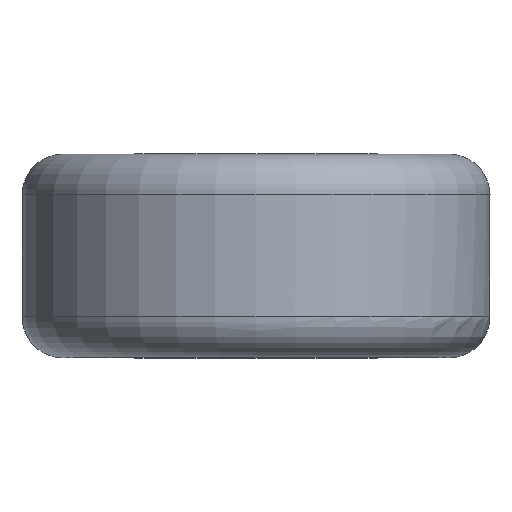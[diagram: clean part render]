
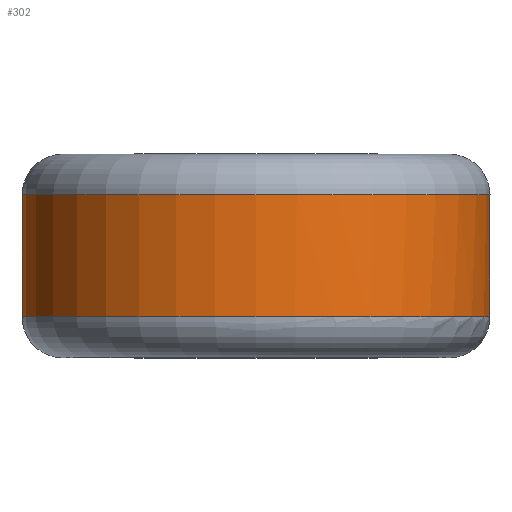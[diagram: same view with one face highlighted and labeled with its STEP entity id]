
A CAD part, top view. The second image highlights one B-rep face of the part: STEP entity #302.
In plain terms, the highlighted cylindrical face has radius 5.75 mm (diameter 11.5 mm), a full revolution.
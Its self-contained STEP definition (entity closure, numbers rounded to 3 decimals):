
#24=B_SPLINE_CURVE_WITH_KNOTS('',3,(#1109,#1110,#1111,#1112,#1113,#1114,
#1115,#1116,#1117,#1118),.UNSPECIFIED.,.F.,.F.,(4,1,1,1,1,1,1,4),(-0.222,
-0.19,-0.158,-0.127,-0.095,
-0.063,-0.032,0.),.UNSPECIFIED.);
#26=B_SPLINE_CURVE_WITH_KNOTS('',3,(#1180,#1181,#1182,#1183,#1184,#1185,
#1186,#1187,#1188,#1189),.UNSPECIFIED.,.F.,.F.,(4,1,1,1,1,1,1,4),(-0.222,
-0.19,-0.158,-0.127,-0.095,
-0.047,-0.032,0.),.UNSPECIFIED.);
#72=FACE_OUTER_BOUND('',#92,.T.);
#92=EDGE_LOOP('',(#241,#242,#243,#244,#245,#246,#247,#248,#249,#250));
#105=LINE('',#1174,#108);
#108=VECTOR('',#407,5.75);
#120=CIRCLE('',#347,5.75);
#121=CIRCLE('',#348,5.75);
#122=CIRCLE('',#349,5.75);
#123=CIRCLE('',#351,5.75);
#124=CIRCLE('',#352,5.75);
#125=CIRCLE('',#353,5.75);
#143=VERTEX_POINT('',#1105);
#144=VERTEX_POINT('',#1107);
#147=VERTEX_POINT('',#1166);
#148=VERTEX_POINT('',#1169);
#149=VERTEX_POINT('',#1173);
#150=VERTEX_POINT('',#1175);
#151=VERTEX_POINT('',#1177);
#152=VERTEX_POINT('',#1179);
#176=EDGE_CURVE('',#143,#144,#24,.T.);
#181=EDGE_CURVE('',#144,#147,#120,.T.);
#182=EDGE_CURVE('',#148,#143,#121,.T.);
#183=EDGE_CURVE('',#147,#148,#122,.T.);
#184=EDGE_CURVE('',#148,#149,#105,.T.);
#185=EDGE_CURVE('',#149,#150,#123,.T.);
#186=EDGE_CURVE('',#150,#151,#124,.T.);
#187=EDGE_CURVE('',#151,#152,#26,.T.);
#188=EDGE_CURVE('',#152,#149,#125,.T.);
#241=ORIENTED_EDGE('',*,*,#176,.T.);
#242=ORIENTED_EDGE('',*,*,#181,.T.);
#243=ORIENTED_EDGE('',*,*,#183,.T.);
#244=ORIENTED_EDGE('',*,*,#184,.T.);
#245=ORIENTED_EDGE('',*,*,#185,.T.);
#246=ORIENTED_EDGE('',*,*,#186,.T.);
#247=ORIENTED_EDGE('',*,*,#187,.T.);
#248=ORIENTED_EDGE('',*,*,#188,.T.);
#249=ORIENTED_EDGE('',*,*,#184,.F.);
#250=ORIENTED_EDGE('',*,*,#182,.T.);
#292=CYLINDRICAL_SURFACE('',#350,5.75);
#302=ADVANCED_FACE('',(#72),#292,.T.);
#347=AXIS2_PLACEMENT_3D('',#1168,#399,#400);
#348=AXIS2_PLACEMENT_3D('',#1170,#401,#402);
#349=AXIS2_PLACEMENT_3D('',#1171,#403,#404);
#350=AXIS2_PLACEMENT_3D('',#1172,#405,#406);
#351=AXIS2_PLACEMENT_3D('',#1176,#408,#409);
#352=AXIS2_PLACEMENT_3D('',#1178,#410,#411);
#353=AXIS2_PLACEMENT_3D('',#1190,#412,#413);
#399=DIRECTION('center_axis',(0.,-1.,0.));
#400=DIRECTION('ref_axis',(-1.,0.,0.));
#401=DIRECTION('center_axis',(0.,-1.,0.));
#402=DIRECTION('ref_axis',(-1.,0.,0.));
#403=DIRECTION('center_axis',(0.,-1.,0.));
#404=DIRECTION('ref_axis',(-1.,0.,0.));
#405=DIRECTION('center_axis',(0.,-1.,0.));
#406=DIRECTION('ref_axis',(1.,0.,0.));
#407=DIRECTION('',(0.,-1.,0.));
#408=DIRECTION('center_axis',(0.,1.,0.));
#409=DIRECTION('ref_axis',(-1.,0.,0.));
#410=DIRECTION('center_axis',(0.,1.,0.));
#411=DIRECTION('ref_axis',(-1.,0.,0.));
#412=DIRECTION('center_axis',(0.,1.,0.));
#413=DIRECTION('ref_axis',(-1.,0.,0.));
#1105=CARTESIAN_POINT('',(-4.087,1.5,-4.045));
#1107=CARTESIAN_POINT('',(-3.327,1.5,-4.689));
#1109=CARTESIAN_POINT('Ctrl Pts',(-4.087,1.5,-4.045));
#1110=CARTESIAN_POINT('Ctrl Pts',(-4.115,1.403,-4.016));
#1111=CARTESIAN_POINT('Ctrl Pts',(-4.134,1.186,-3.996));
#1112=CARTESIAN_POINT('Ctrl Pts',(-4.042,0.886,-4.091));
#1113=CARTESIAN_POINT('Ctrl Pts',(-3.846,0.704,-4.279));
#1114=CARTESIAN_POINT('Ctrl Pts',(-3.598,0.707,-4.489));
#1115=CARTESIAN_POINT('Ctrl Pts',(-3.382,0.887,-4.652));
#1116=CARTESIAN_POINT('Ctrl Pts',(-3.27,1.186,-4.729));
#1117=CARTESIAN_POINT('Ctrl Pts',(-3.294,1.403,-4.713));
#1118=CARTESIAN_POINT('Ctrl Pts',(-3.327,1.5,-4.689));
#1166=CARTESIAN_POINT('',(0.,1.5,-5.75));
#1168=CARTESIAN_POINT('Origin',(0.,1.5,0.));
#1169=CARTESIAN_POINT('',(-5.75,1.5,0.));
#1170=CARTESIAN_POINT('Origin',(0.,1.5,0.));
#1171=CARTESIAN_POINT('Origin',(0.,1.5,0.));
#1172=CARTESIAN_POINT('Origin',(0.,0.,0.));
#1173=CARTESIAN_POINT('',(-5.75,-1.5,0.));
#1174=CARTESIAN_POINT('',(-5.75,0.,0.));
#1175=CARTESIAN_POINT('',(0.,-1.5,5.75));
#1176=CARTESIAN_POINT('Origin',(0.,-1.5,0.));
#1177=CARTESIAN_POINT('',(4.087,-1.5,-4.045));
#1178=CARTESIAN_POINT('Origin',(0.,-1.5,0.));
#1179=CARTESIAN_POINT('',(3.327,-1.5,-4.689));
#1180=CARTESIAN_POINT('Ctrl Pts',(4.087,-1.5,-4.045));
#1181=CARTESIAN_POINT('Ctrl Pts',(4.115,-1.403,-4.016));
#1182=CARTESIAN_POINT('Ctrl Pts',(4.134,-1.186,-3.996));
#1183=CARTESIAN_POINT('Ctrl Pts',(4.042,-0.886,-4.091));
#1184=CARTESIAN_POINT('Ctrl Pts',(3.846,-0.705,-4.278));
#1185=CARTESIAN_POINT('Ctrl Pts',(3.556,-0.706,-4.524));
#1186=CARTESIAN_POINT('Ctrl Pts',(3.35,-0.934,-4.674));
#1187=CARTESIAN_POINT('Ctrl Pts',(3.277,-1.241,-4.725));
#1188=CARTESIAN_POINT('Ctrl Pts',(3.294,-1.403,-4.713));
#1189=CARTESIAN_POINT('Ctrl Pts',(3.327,-1.5,-4.689));
#1190=CARTESIAN_POINT('Origin',(0.,-1.5,0.));
